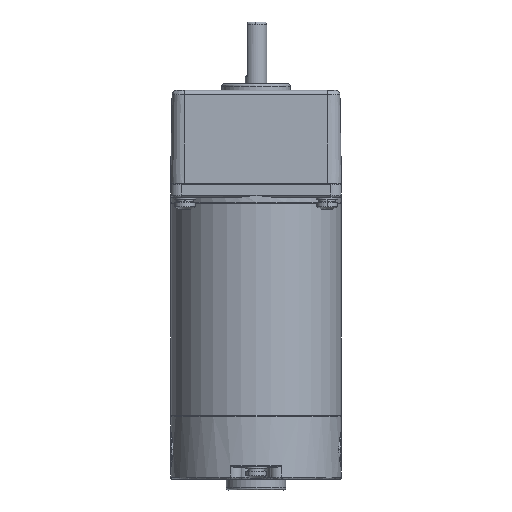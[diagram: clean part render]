
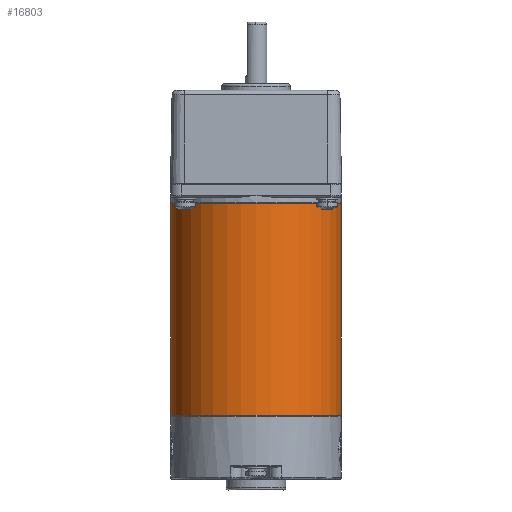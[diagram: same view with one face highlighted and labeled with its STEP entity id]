
A CAD part, front view. The second image highlights one B-rep face of the part: STEP entity #16803.
In plain terms, the highlighted cylindrical face has radius 40 mm (diameter 80 mm), a partial arc.
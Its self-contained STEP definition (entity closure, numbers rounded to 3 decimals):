
#61 = LINE ( 'NONE', #11537, #10581 ) ;
#1260 = EDGE_CURVE ( 'NONE', #17307, #11739, #61, .T. ) ;
#1353 = LINE ( 'NONE', #11681, #16907 ) ;
#3746 = EDGE_LOOP ( 'NONE', ( #16939, #10422, #18025, #7256 ) ) ;
#3801 = VERTEX_POINT ( 'NONE', #9950 ) ;
#3912 = CARTESIAN_POINT ( 'NONE',  ( 47.192, 99., -3.62 ) ) ;
#4279 = EDGE_CURVE ( 'NONE', #3801, #11739, #4769, .T. ) ;
#4735 = AXIS2_PLACEMENT_3D ( 'NONE', #3912, #11111, #7139 ) ;
#4769 = CIRCLE ( 'NONE', #6592, 40. ) ;
#5780 = EDGE_CURVE ( 'NONE', #6061, #3801, #1353, .T. ) ;
#6061 = VERTEX_POINT ( 'NONE', #11293 ) ;
#6439 = DIRECTION ( 'NONE',  ( 0., -1., 0. ) ) ;
#6592 = AXIS2_PLACEMENT_3D ( 'NONE', #11540, #7289, #11815 ) ;
#6819 = DIRECTION ( 'NONE',  ( 0., 0., -1. ) ) ;
#7139 = DIRECTION ( 'NONE',  ( 0., 0., -1. ) ) ;
#7148 = DIRECTION ( 'NONE',  ( 0., -1., 0. ) ) ;
#7256 = ORIENTED_EDGE ( 'NONE', *, *, #4279, .T. ) ;
#7289 = DIRECTION ( 'NONE',  ( 0., 1., 0. ) ) ;
#8166 = EDGE_CURVE ( 'NONE', #17307, #6061, #13943, .T. ) ;
#9950 = CARTESIAN_POINT ( 'NONE',  ( 47.192, 0., -43.62 ) ) ;
#10375 = CARTESIAN_POINT ( 'NONE',  ( 47.192, 0., 36.38 ) ) ;
#10422 = ORIENTED_EDGE ( 'NONE', *, *, #8166, .T. ) ;
#10581 = VECTOR ( 'NONE', #17322, 1000. ) ;
#10973 = CARTESIAN_POINT ( 'NONE',  ( 47.192, 99., -3.62 ) ) ;
#11111 = DIRECTION ( 'NONE',  ( 0., -1., 0. ) ) ;
#11293 = CARTESIAN_POINT ( 'NONE',  ( 47.192, 99., -43.62 ) ) ;
#11301 = FACE_OUTER_BOUND ( 'NONE', #3746, .T. ) ;
#11537 = CARTESIAN_POINT ( 'NONE',  ( 47.192, 99., 36.38 ) ) ;
#11540 = CARTESIAN_POINT ( 'NONE',  ( 47.192, 0., -3.62 ) ) ;
#11681 = CARTESIAN_POINT ( 'NONE',  ( 47.192, 99., -43.62 ) ) ;
#11739 = VERTEX_POINT ( 'NONE', #10375 ) ;
#11815 = DIRECTION ( 'NONE',  ( 0., 0., -1. ) ) ;
#13843 = CARTESIAN_POINT ( 'NONE',  ( 47.192, 99., 36.38 ) ) ;
#13943 = CIRCLE ( 'NONE', #18482, 40. ) ;
#16803 = ADVANCED_FACE ( 'NONE', ( #11301 ), #18605, .T. ) ;
#16907 = VECTOR ( 'NONE', #7148, 1000. ) ;
#16939 = ORIENTED_EDGE ( 'NONE', *, *, #1260, .F. ) ;
#17307 = VERTEX_POINT ( 'NONE', #13843 ) ;
#17322 = DIRECTION ( 'NONE',  ( 0., -1., 0. ) ) ;
#18025 = ORIENTED_EDGE ( 'NONE', *, *, #5780, .T. ) ;
#18482 = AXIS2_PLACEMENT_3D ( 'NONE', #10973, #6439, #6819 ) ;
#18605 = CYLINDRICAL_SURFACE ( 'NONE', #4735, 40. ) ;
